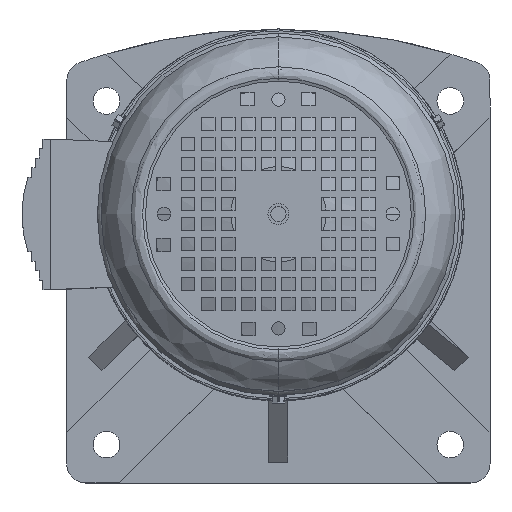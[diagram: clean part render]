
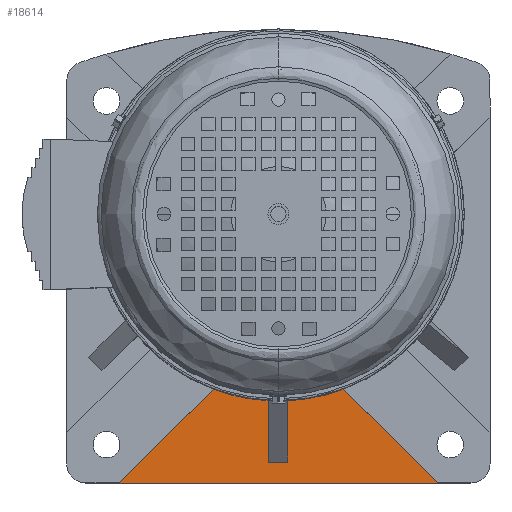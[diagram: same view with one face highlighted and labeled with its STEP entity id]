
A CAD part, top view. The second image highlights one B-rep face of the part: STEP entity #18614.
In plain terms, the highlighted planar face has unit normal (0, 0, 1).
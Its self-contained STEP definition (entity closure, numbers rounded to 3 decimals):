
#678 = ORIENTED_EDGE ( 'NONE', *, *, #23178, .T. ) ;
#786 = EDGE_LOOP ( 'NONE', ( #3686, #3129, #678, #27455, #36228, #27790, #24559, #10252 ) ) ;
#1136 = VERTEX_POINT ( 'NONE', #6692 ) ;
#3129 = ORIENTED_EDGE ( 'NONE', *, *, #31794, .T. ) ;
#3275 = FACE_OUTER_BOUND ( 'NONE', #786, .T. ) ;
#3686 = ORIENTED_EDGE ( 'NONE', *, *, #31274, .T. ) ;
#4193 = VECTOR ( 'NONE', #17117, 1000. ) ;
#5389 = VECTOR ( 'NONE', #8794, 1000. ) ;
#5430 = EDGE_CURVE ( 'NONE', #29665, #23690, #14195, .T. ) ;
#5670 = VECTOR ( 'NONE', #6552, 1000. ) ;
#6068 = CARTESIAN_POINT ( 'NONE',  ( 34.049, -91.361, -5. ) ) ;
#6552 = DIRECTION ( 'NONE',  ( -1., 0., 0. ) ) ;
#6653 = CARTESIAN_POINT ( 'NONE',  ( 0., -129.5, -5. ) ) ;
#6692 = CARTESIAN_POINT ( 'NONE',  ( 5., -97.372, -5. ) ) ;
#7750 = LINE ( 'NONE', #31493, #41468 ) ;
#8065 = VERTEX_POINT ( 'NONE', #35544 ) ;
#8794 = DIRECTION ( 'NONE',  ( -0.713, -0.702, 0. ) ) ;
#8807 = CARTESIAN_POINT ( 'NONE',  ( -34.049, -91.361, -5. ) ) ;
#10252 = ORIENTED_EDGE ( 'NONE', *, *, #19877, .F. ) ;
#10440 = DIRECTION ( 'NONE',  ( -1., 0., 0. ) ) ;
#10448 = DIRECTION ( 'NONE',  ( 0., 0., 1. ) ) ;
#10485 = CARTESIAN_POINT ( 'NONE',  ( 0., 0., -5. ) ) ;
#14195 = LINE ( 'NONE', #8807, #5389 ) ;
#14249 = VERTEX_POINT ( 'NONE', #31973 ) ;
#15055 = LINE ( 'NONE', #17360, #4193 ) ;
#16518 = EDGE_CURVE ( 'NONE', #23690, #8065, #33763, .T. ) ;
#17117 = DIRECTION ( 'NONE',  ( 0., -1., 0. ) ) ;
#17360 = CARTESIAN_POINT ( 'NONE',  ( 5., 0., -5. ) ) ;
#18614 = ADVANCED_FACE ( 'NONE', ( #3275 ), #36048, .T. ) ;
#19877 = EDGE_CURVE ( 'NONE', #1136, #31817, #38988, .T. ) ;
#19917 = VECTOR ( 'NONE', #26927, 1000. ) ;
#20762 = VERTEX_POINT ( 'NONE', #41036 ) ;
#21225 = EDGE_CURVE ( 'NONE', #29665, #27322, #29602, .T. ) ;
#23178 = EDGE_CURVE ( 'NONE', #14249, #27322, #7750, .T. ) ;
#23690 = VERTEX_POINT ( 'NONE', #39935 ) ;
#24559 = ORIENTED_EDGE ( 'NONE', *, *, #29961, .T. ) ;
#25878 = AXIS2_PLACEMENT_3D ( 'NONE', #37602, #37591, #37549 ) ;
#26927 = DIRECTION ( 'NONE',  ( -0.713, 0.702, 0. ) ) ;
#27322 = VERTEX_POINT ( 'NONE', #30534 ) ;
#27455 = ORIENTED_EDGE ( 'NONE', *, *, #21225, .F. ) ;
#27790 = ORIENTED_EDGE ( 'NONE', *, *, #16518, .T. ) ;
#28359 = CARTESIAN_POINT ( 'NONE',  ( -34.049, -91.361, -5. ) ) ;
#29602 = CIRCLE ( 'NONE', #25878, 97.5 ) ;
#29665 = VERTEX_POINT ( 'NONE', #28359 ) ;
#29961 = EDGE_CURVE ( 'NONE', #8065, #31817, #36182, .T. ) ;
#30165 = DIRECTION ( 'NONE',  ( 0., 1., 0. ) ) ;
#30534 = CARTESIAN_POINT ( 'NONE',  ( -5., -97.372, -5. ) ) ;
#30626 = CARTESIAN_POINT ( 'NONE',  ( 0., -140.5, -5. ) ) ;
#31004 = DIRECTION ( 'NONE',  ( 1., 0., 0. ) ) ;
#31274 = EDGE_CURVE ( 'NONE', #1136, #20762, #15055, .T. ) ;
#31493 = CARTESIAN_POINT ( 'NONE',  ( -5., 0., -5. ) ) ;
#31794 = EDGE_CURVE ( 'NONE', #20762, #14249, #32898, .T. ) ;
#31817 = VERTEX_POINT ( 'NONE', #6068 ) ;
#31973 = CARTESIAN_POINT ( 'NONE',  ( -5., -129.5, -5. ) ) ;
#32884 = CARTESIAN_POINT ( 'NONE',  ( 68.708, -125.481, -5. ) ) ;
#32898 = LINE ( 'NONE', #6653, #5670 ) ;
#33763 = LINE ( 'NONE', #30626, #41319 ) ;
#35544 = CARTESIAN_POINT ( 'NONE',  ( 83.963, -140.5, -5. ) ) ;
#35916 = DIRECTION ( 'NONE',  ( 1., 0., 0. ) ) ;
#35957 = DIRECTION ( 'NONE',  ( 0., 0., 1. ) ) ;
#36048 = PLANE ( 'NONE',  #36319 ) ;
#36182 = LINE ( 'NONE', #32884, #19917 ) ;
#36228 = ORIENTED_EDGE ( 'NONE', *, *, #5430, .T. ) ;
#36231 = CARTESIAN_POINT ( 'NONE',  ( 0., 0., -5. ) ) ;
#36319 = AXIS2_PLACEMENT_3D ( 'NONE', #36231, #35957, #35916 ) ;
#37549 = DIRECTION ( 'NONE',  ( -1., 0., 0. ) ) ;
#37591 = DIRECTION ( 'NONE',  ( 0., 0., 1. ) ) ;
#37602 = CARTESIAN_POINT ( 'NONE',  ( 0., 0., -5. ) ) ;
#38988 = CIRCLE ( 'NONE', #41500, 97.5 ) ;
#39935 = CARTESIAN_POINT ( 'NONE',  ( -83.963, -140.5, -5. ) ) ;
#41036 = CARTESIAN_POINT ( 'NONE',  ( 5., -129.5, -5. ) ) ;
#41319 = VECTOR ( 'NONE', #31004, 1000. ) ;
#41468 = VECTOR ( 'NONE', #30165, 1000. ) ;
#41500 = AXIS2_PLACEMENT_3D ( 'NONE', #10485, #10448, #10440 ) ;
